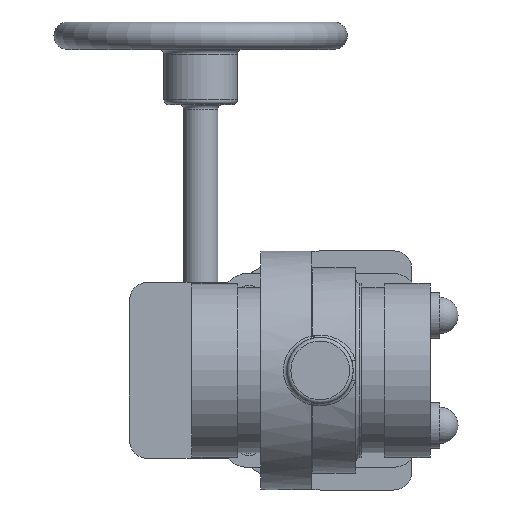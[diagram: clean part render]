
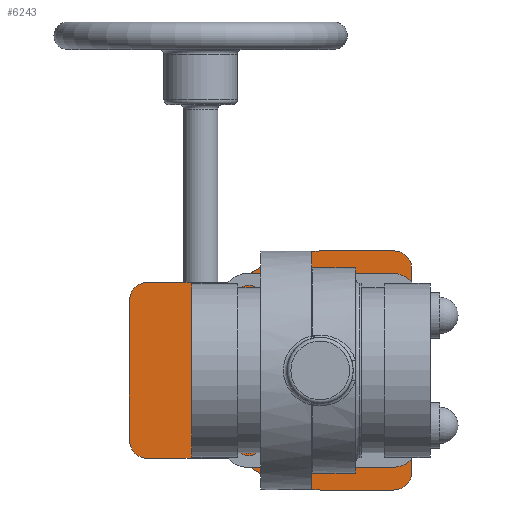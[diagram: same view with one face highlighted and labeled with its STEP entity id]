
A CAD part, front view. The second image highlights one B-rep face of the part: STEP entity #6243.
In plain terms, the highlighted planar face has unit normal (0, -1, 0).
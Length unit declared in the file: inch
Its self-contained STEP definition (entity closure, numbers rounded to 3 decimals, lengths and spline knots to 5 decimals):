
#250=FACE_BOUND('',#1135,.T.);
#251=FACE_BOUND('',#1136,.T.);
#252=FACE_BOUND('',#1137,.T.);
#253=FACE_BOUND('',#1138,.T.);
#254=FACE_BOUND('',#1139,.T.);
#350=PLANE('',#7196);
#717=FACE_OUTER_BOUND('',#1134,.T.);
#1134=EDGE_LOOP('',(#5349,#5350,#5351,#5352,#5353,#5354,#5355,#5356,#5357,
#5358,#5359,#5360));
#1135=EDGE_LOOP('',(#5361));
#1136=EDGE_LOOP('',(#5362));
#1137=EDGE_LOOP('',(#5363));
#1138=EDGE_LOOP('',(#5364));
#1139=EDGE_LOOP('',(#5365));
#1304=LINE('',#10870,#1615);
#1307=LINE('',#10880,#1618);
#1310=LINE('',#10890,#1621);
#1313=LINE('',#10898,#1624);
#1449=LINE('',#11747,#1760);
#1450=LINE('',#11749,#1761);
#1615=VECTOR('',#8117,0.3937);
#1618=VECTOR('',#8130,0.3937);
#1621=VECTOR('',#8141,0.3937);
#1624=VECTOR('',#8150,0.3937);
#1760=VECTOR('',#9216,0.3937);
#1761=VECTOR('',#9219,0.3937);
#1885=CIRCLE('',#6544,0.16);
#1977=CIRCLE('',#6716,0.25);
#1979=CIRCLE('',#6721,1.63);
#1981=CIRCLE('',#6725,0.25);
#1982=CIRCLE('',#6728,0.25);
#1983=CIRCLE('',#6731,1.63);
#2231=CIRCLE('',#7122,0.15625);
#2233=CIRCLE('',#7126,0.15625);
#2235=CIRCLE('',#7130,0.15625);
#2237=CIRCLE('',#7134,0.15625);
#2263=CIRCLE('',#7193,0.25);
#2406=VERTEX_POINT('',#10345);
#2531=VERTEX_POINT('',#10862);
#2532=VERTEX_POINT('',#10864);
#2533=VERTEX_POINT('',#10868);
#2534=VERTEX_POINT('',#10874);
#2535=VERTEX_POINT('',#10878);
#2537=VERTEX_POINT('',#10884);
#2538=VERTEX_POINT('',#10888);
#2539=VERTEX_POINT('',#10892);
#2540=VERTEX_POINT('',#10896);
#2541=VERTEX_POINT('',#10900);
#2754=VERTEX_POINT('',#11615);
#2756=VERTEX_POINT('',#11622);
#2758=VERTEX_POINT('',#11629);
#2760=VERTEX_POINT('',#11636);
#2787=VERTEX_POINT('',#11741);
#2788=VERTEX_POINT('',#11743);
#3015=EDGE_CURVE('',#2406,#2406,#1885,.T.);
#3212=EDGE_CURVE('',#2532,#2531,#1977,.T.);
#3215=EDGE_CURVE('',#2531,#2533,#1304,.T.);
#3218=EDGE_CURVE('',#2533,#2534,#1979,.T.);
#3220=EDGE_CURVE('',#2534,#2535,#1307,.T.);
#3223=EDGE_CURVE('',#2535,#2537,#1981,.T.);
#3225=EDGE_CURVE('',#2537,#2538,#1310,.T.);
#3227=EDGE_CURVE('',#2538,#2539,#1982,.T.);
#3229=EDGE_CURVE('',#2539,#2540,#1313,.T.);
#3231=EDGE_CURVE('',#2540,#2541,#1983,.T.);
#3589=EDGE_CURVE('',#2754,#2754,#2231,.T.);
#3592=EDGE_CURVE('',#2756,#2756,#2233,.T.);
#3595=EDGE_CURVE('',#2758,#2758,#2235,.T.);
#3598=EDGE_CURVE('',#2760,#2760,#2237,.T.);
#3644=EDGE_CURVE('',#2788,#2787,#2263,.T.);
#3646=EDGE_CURVE('',#2787,#2532,#1449,.T.);
#3647=EDGE_CURVE('',#2541,#2788,#1450,.T.);
#5349=ORIENTED_EDGE('',*,*,#3647,.T.);
#5350=ORIENTED_EDGE('',*,*,#3644,.T.);
#5351=ORIENTED_EDGE('',*,*,#3646,.T.);
#5352=ORIENTED_EDGE('',*,*,#3212,.T.);
#5353=ORIENTED_EDGE('',*,*,#3215,.T.);
#5354=ORIENTED_EDGE('',*,*,#3218,.T.);
#5355=ORIENTED_EDGE('',*,*,#3220,.T.);
#5356=ORIENTED_EDGE('',*,*,#3223,.T.);
#5357=ORIENTED_EDGE('',*,*,#3225,.T.);
#5358=ORIENTED_EDGE('',*,*,#3227,.T.);
#5359=ORIENTED_EDGE('',*,*,#3229,.T.);
#5360=ORIENTED_EDGE('',*,*,#3231,.T.);
#5361=ORIENTED_EDGE('',*,*,#3015,.T.);
#5362=ORIENTED_EDGE('',*,*,#3589,.T.);
#5363=ORIENTED_EDGE('',*,*,#3592,.T.);
#5364=ORIENTED_EDGE('',*,*,#3595,.T.);
#5365=ORIENTED_EDGE('',*,*,#3598,.T.);
#6243=ADVANCED_FACE('',(#717,#250,#251,#252,#253,#254),#350,.T.);
#6544=AXIS2_PLACEMENT_3D('',#10346,#7670,#7671);
#6716=AXIS2_PLACEMENT_3D('',#10865,#8111,#8112);
#6721=AXIS2_PLACEMENT_3D('',#10876,#8125,#8126);
#6725=AXIS2_PLACEMENT_3D('',#10886,#8136,#8137);
#6728=AXIS2_PLACEMENT_3D('',#10894,#8145,#8146);
#6731=AXIS2_PLACEMENT_3D('',#10902,#8154,#8155);
#7122=AXIS2_PLACEMENT_3D('',#11616,#9046,#9047);
#7126=AXIS2_PLACEMENT_3D('',#11623,#9055,#9056);
#7130=AXIS2_PLACEMENT_3D('',#11630,#9064,#9065);
#7134=AXIS2_PLACEMENT_3D('',#11637,#9073,#9074);
#7193=AXIS2_PLACEMENT_3D('',#11744,#9211,#9212);
#7196=AXIS2_PLACEMENT_3D('',#11750,#9220,#9221);
#7670=DIRECTION('center_axis',(0.,1.,0.));
#7671=DIRECTION('ref_axis',(-1.,0.,0.));
#8111=DIRECTION('center_axis',(0.,-1.,0.));
#8112=DIRECTION('ref_axis',(-1.,0.,0.));
#8117=DIRECTION('',(0.,0.,1.));
#8125=DIRECTION('center_axis',(0.,-1.,0.));
#8126=DIRECTION('ref_axis',(-0.736,0.,-0.677));
#8130=DIRECTION('',(0.,0.,1.));
#8136=DIRECTION('center_axis',(0.,-1.,0.));
#8137=DIRECTION('ref_axis',(0.,0.,-1.));
#8141=DIRECTION('',(-1.,0.,0.));
#8145=DIRECTION('center_axis',(0.,-1.,0.));
#8146=DIRECTION('ref_axis',(1.,0.,0.));
#8150=DIRECTION('',(0.,0.,-1.));
#8154=DIRECTION('center_axis',(0.,-1.,0.));
#8155=DIRECTION('ref_axis',(1.,0.,0.));
#9046=DIRECTION('center_axis',(0.,1.,0.));
#9047=DIRECTION('ref_axis',(-1.,0.,0.));
#9055=DIRECTION('center_axis',(0.,1.,0.));
#9056=DIRECTION('ref_axis',(-1.,0.,0.));
#9064=DIRECTION('center_axis',(0.,1.,0.));
#9065=DIRECTION('ref_axis',(-1.,0.,0.));
#9073=DIRECTION('center_axis',(0.,1.,0.));
#9074=DIRECTION('ref_axis',(-1.,0.,0.));
#9211=DIRECTION('center_axis',(0.,-1.,0.));
#9212=DIRECTION('ref_axis',(0.,0.,1.));
#9216=DIRECTION('',(1.,0.,0.));
#9219=DIRECTION('',(0.,0.,-1.));
#9220=DIRECTION('center_axis',(0.,-1.,0.));
#9221=DIRECTION('ref_axis',(0.,0.,-1.));
#10345=CARTESIAN_POINT('',(0.16,0.,0.));
#10346=CARTESIAN_POINT('Origin',(0.,0.,0.));
#10862=CARTESIAN_POINT('',(1.63,0.,-1.));
#10864=CARTESIAN_POINT('',(1.38,0.,-1.25));
#10865=CARTESIAN_POINT('Origin',(1.38,0.,-1.));
#10868=CARTESIAN_POINT('',(1.63,0.,0.));
#10870=CARTESIAN_POINT('',(1.63,0.,-1.));
#10874=CARTESIAN_POINT('',(1.2,0.,1.10313));
#10876=CARTESIAN_POINT('Origin',(0.,0.,0.));
#10878=CARTESIAN_POINT('',(1.2,0.,2.35));
#10880=CARTESIAN_POINT('',(1.2,0.,1.10313));
#10884=CARTESIAN_POINT('',(0.95,0.,2.6));
#10886=CARTESIAN_POINT('Origin',(0.95,0.,2.35));
#10888=CARTESIAN_POINT('',(-0.95,0.,2.6));
#10890=CARTESIAN_POINT('',(0.95,0.,2.6));
#10892=CARTESIAN_POINT('',(-1.2,0.,2.35));
#10894=CARTESIAN_POINT('Origin',(-0.95,0.,2.35));
#10896=CARTESIAN_POINT('',(-1.2,0.,1.10313));
#10898=CARTESIAN_POINT('',(-1.2,0.,2.35));
#10900=CARTESIAN_POINT('',(-1.63,0.,0.));
#10902=CARTESIAN_POINT('Origin',(0.,0.,0.));
#11615=CARTESIAN_POINT('',(1.12852,0.,0.97227));
#11616=CARTESIAN_POINT('Origin',(0.97227,0.,0.97227));
#11622=CARTESIAN_POINT('',(-0.81602,0.,-0.97227));
#11623=CARTESIAN_POINT('Origin',(-0.97227,0.,-0.97227));
#11629=CARTESIAN_POINT('',(-0.81602,0.,0.97227));
#11630=CARTESIAN_POINT('Origin',(-0.97227,0.,0.97227));
#11636=CARTESIAN_POINT('',(1.12852,0.,-0.97227));
#11637=CARTESIAN_POINT('Origin',(0.97227,0.,-0.97227));
#11741=CARTESIAN_POINT('',(-1.38,0.,-1.25));
#11743=CARTESIAN_POINT('',(-1.63,0.,-1.));
#11744=CARTESIAN_POINT('Origin',(-1.38,0.,-1.));
#11747=CARTESIAN_POINT('',(-1.38,0.,-1.25));
#11749=CARTESIAN_POINT('',(-1.63,0.,0.));
#11750=CARTESIAN_POINT('Origin',(0.,0.,0.54671));
